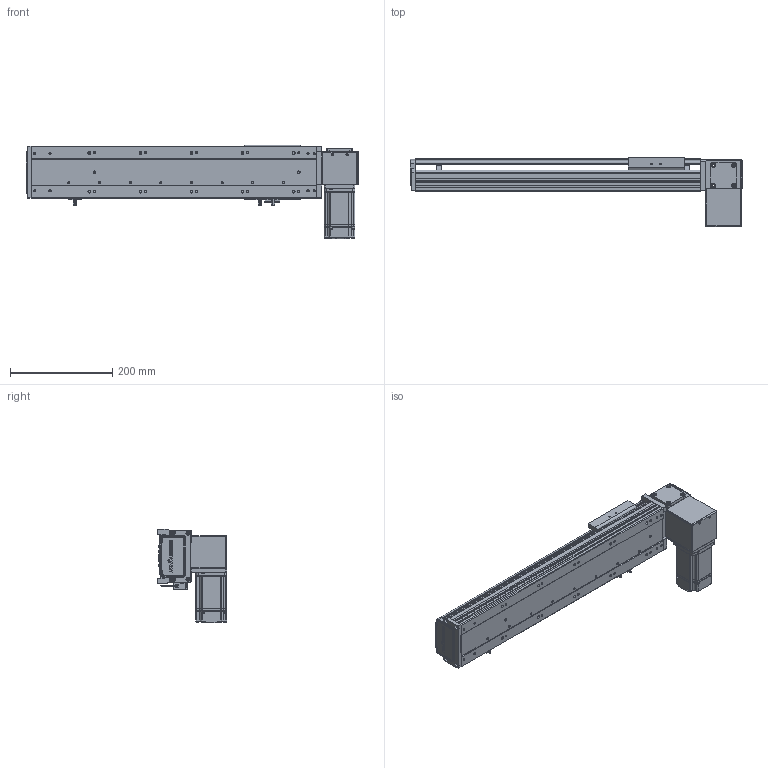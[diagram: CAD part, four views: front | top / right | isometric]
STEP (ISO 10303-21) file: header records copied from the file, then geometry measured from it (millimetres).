
FILE_DESCRIPTION (( 'STEP AP203' ), '1' );
FILE_NAME ('RY100-T-300-DL.SLDASM_350.step', '2024-04-24T01:10:37', ( '盈信电脑' ), ( '东莞市道滘镇水果街19号' ), 'SwSTEP 2.0', 'SolidWorks 2016', '' );
FILE_SCHEMA (( 'CONFIG_CONTROL_DESIGN' ));
Length unit declared in the file: millimetre
Products named in the file (16): RY100-T粣創揤踡裔; RY100-T翋肮祭謫裔啣; RY100-T翋肮祭謫裔啣2; RY100俋离覜茼え; RY100-T翋肮祭謫粣; RY100-T肮祭謫臏賑輸; 1; RY100-T-300-DL.SLDASM_350; RY80-T肮祭謫狟殏俋欶; RY100綴裔啣; RY100-T肮祭謫翋盓傅釱; RY100-T-300-RK倰第奻裔_350; RY100-T-300-RK倰第菁釱_350; 滅袉蝶18-10; RY100-T左右折电机安装板; 覜茼ん672
Assembly tree (18 placements, depth 2):
  RY100-T-300-DL.SLDASM_350
    RY100-T-300-RK倰第菁釱_350
    RY100-T-300-RK倰第奻裔_350
    RY100-T肮祭謫臏賑輸
    RY100綴裔啣
    覜茼ん672  x3
    RY100俋离覜茼え
    RY100-T翋肮祭謫粣
    RY100-T肮祭謫翋盓傅釱
    滅袉蝶18-10  x2
    RY100-T翋肮祭謫裔啣
    1
    RY100-T左右折电机安装板
    RY100-T粣創揤踡裔
    RY100-T翋肮祭謫裔啣2
    RY80-T肮祭謫狟殏俋欶
Bounding box: 650 x 135.5 x 182.5 mm (x, y, z)
Volume: 1605115.4 mm3; surface area: 623764.6 mm2
Topology: 18 solids, 18 shells, 2161 faces, 5959 edges, 3865 vertices
Faces by surface type: plane 1203, cylinder 745, cone 135, bspline 78
Entity records: 68920 total; most frequent: CARTESIAN_POINT 16416, ORIENTED_EDGE 10750, DIRECTION 10271, EDGE_CURVE 5375, LINE 3537, VECTOR 3537, VERTEX_POINT 3533, AXIS2_PLACEMENT_3D 3367
